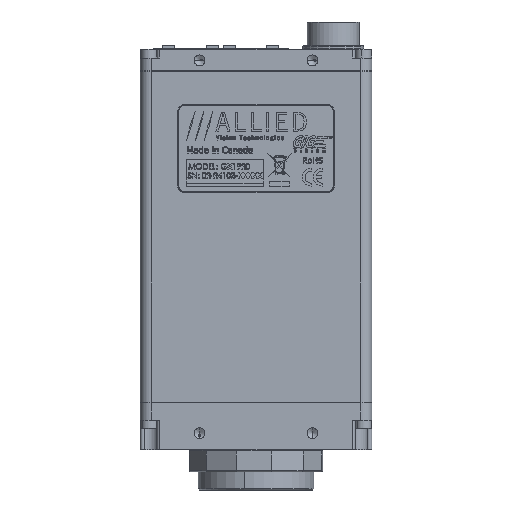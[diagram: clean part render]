
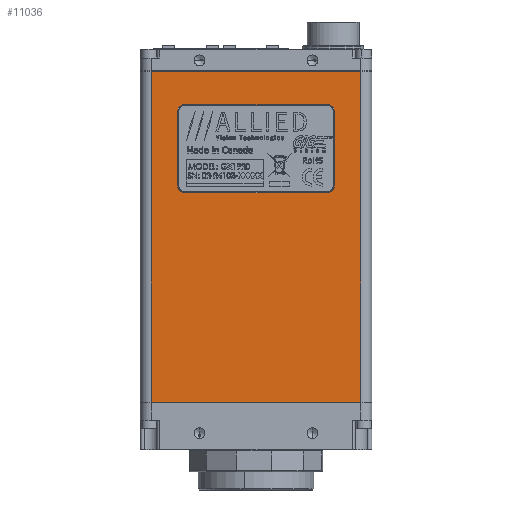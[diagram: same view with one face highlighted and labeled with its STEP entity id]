
A CAD part, front view. The second image highlights one B-rep face of the part: STEP entity #11036.
In plain terms, the highlighted planar face has unit normal (0, -1, 0).
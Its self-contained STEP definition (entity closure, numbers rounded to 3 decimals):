
#5130 = DIRECTION ( 'NONE',  ( 1., 0., 0. ) ) ;
#5493 = ORIENTED_EDGE ( 'NONE', *, *, #171075, .T. ) ;
#7937 = FACE_BOUND ( 'NONE', #172979, .T. ) ;
#11036 = ADVANCED_FACE ( 'NONE', ( #51782, #7937 ), #55392, .T. ) ;
#13838 = LINE ( 'NONE', #60412, #101396 ) ;
#18951 = CARTESIAN_POINT ( 'NONE',  ( 24.13, -10.16, 30.48 ) ) ;
#20796 = EDGE_CURVE ( 'NONE', #142044, #168007, #124942, .T. ) ;
#27977 = DIRECTION ( 'NONE',  ( 0., 0., -1. ) ) ;
#28758 = CARTESIAN_POINT ( 'NONE',  ( -24.13, -10.16, -92.399 ) ) ;
#29971 = DIRECTION ( 'NONE',  ( 0., 0., -1. ) ) ;
#38070 = VERTEX_POINT ( 'NONE', #125774 ) ;
#38634 = ORIENTED_EDGE ( 'NONE', *, *, #53291, .T. ) ;
#40317 = EDGE_CURVE ( 'NONE', #148089, #140801, #208707, .T. ) ;
#42620 = CARTESIAN_POINT ( 'NONE',  ( -24.13, -10.16, -38.1 ) ) ;
#44097 = LINE ( 'NONE', #115050, #93175 ) ;
#44415 = DIRECTION ( 'NONE',  ( 0., 1., 0. ) ) ;
#45643 = CIRCLE ( 'NONE', #122328, 1.587 ) ;
#47621 = CARTESIAN_POINT ( 'NONE',  ( 18.034, -10.16, 28.893 ) ) ;
#48918 = ORIENTED_EDGE ( 'NONE', *, *, #192285, .T. ) ;
#49168 = CIRCLE ( 'NONE', #115872, 1.587 ) ;
#50424 = VERTEX_POINT ( 'NONE', #101045 ) ;
#51782 = FACE_OUTER_BOUND ( 'NONE', #59771, .T. ) ;
#52984 = DIRECTION ( 'NONE',  ( 1., 0., 0. ) ) ;
#53014 = DIRECTION ( 'NONE',  ( 0., -1., 0. ) ) ;
#53291 = EDGE_CURVE ( 'NONE', #50424, #142044, #45643, .T. ) ;
#53444 = CARTESIAN_POINT ( 'NONE',  ( 24.13, -10.16, -92.399 ) ) ;
#55392 = PLANE ( 'NONE',  #141495 ) ;
#58416 = VERTEX_POINT ( 'NONE', #47621 ) ;
#59771 = EDGE_LOOP ( 'NONE', ( #48918, #90395, #163183, #96492 ) ) ;
#60412 = CARTESIAN_POINT ( 'NONE',  ( 24.13, -10.16, -38.1 ) ) ;
#67865 = EDGE_CURVE ( 'NONE', #129948, #58416, #133283, .T. ) ;
#69971 = CIRCLE ( 'NONE', #121446, 1.587 ) ;
#74578 = EDGE_CURVE ( 'NONE', #149611, #50424, #44097, .T. ) ;
#75357 = EDGE_CURVE ( 'NONE', #125925, #149611, #69971, .T. ) ;
#77073 = CARTESIAN_POINT ( 'NONE',  ( 16.447, -10.16, 10.16 ) ) ;
#84439 = CARTESIAN_POINT ( 'NONE',  ( -16.447, -10.16, 28.893 ) ) ;
#88366 = DIRECTION ( 'NONE',  ( 0., 0., 1. ) ) ;
#90395 = ORIENTED_EDGE ( 'NONE', *, *, #40317, .T. ) ;
#93175 = VECTOR ( 'NONE', #163821, 1000. ) ;
#93252 = CARTESIAN_POINT ( 'NONE',  ( 16.447, -10.16, 28.893 ) ) ;
#96492 = ORIENTED_EDGE ( 'NONE', *, *, #111504, .T. ) ;
#97763 = CARTESIAN_POINT ( 'NONE',  ( -18.034, -10.16, 28.893 ) ) ;
#100856 = DIRECTION ( 'NONE',  ( 1., 0., 0. ) ) ;
#100891 = CARTESIAN_POINT ( 'NONE',  ( 18.034, -10.16, 11.748 ) ) ;
#101045 = CARTESIAN_POINT ( 'NONE',  ( -16.447, -10.16, 10.16 ) ) ;
#101276 = LINE ( 'NONE', #128579, #188239 ) ;
#101396 = VECTOR ( 'NONE', #205436, 1000. ) ;
#103039 = AXIS2_PLACEMENT_3D ( 'NONE', #93252, #207230, #109770 ) ;
#103859 = DIRECTION ( 'NONE',  ( 0., 1., 0. ) ) ;
#109770 = DIRECTION ( 'NONE',  ( 1., 0., 0. ) ) ;
#111504 = EDGE_CURVE ( 'NONE', #177033, #160340, #168395, .T. ) ;
#114509 = CARTESIAN_POINT ( 'NONE',  ( 16.447, -10.16, 30.48 ) ) ;
#114727 = CARTESIAN_POINT ( 'NONE',  ( 24.13, -10.16, 38.1 ) ) ;
#115050 = CARTESIAN_POINT ( 'NONE',  ( 24.13, -10.16, 10.16 ) ) ;
#115872 = AXIS2_PLACEMENT_3D ( 'NONE', #84439, #198585, #100856 ) ;
#121446 = AXIS2_PLACEMENT_3D ( 'NONE', #201608, #103859, #5130 ) ;
#122328 = AXIS2_PLACEMENT_3D ( 'NONE', #143079, #44415, #159531 ) ;
#124359 = DIRECTION ( 'NONE',  ( 0., 0., 1. ) ) ;
#124876 = VECTOR ( 'NONE', #88366, 1000. ) ;
#124895 = CARTESIAN_POINT ( 'NONE',  ( -18.034, -10.16, -92.399 ) ) ;
#124942 = LINE ( 'NONE', #124895, #163369 ) ;
#125774 = CARTESIAN_POINT ( 'NONE',  ( -16.447, -10.16, 30.48 ) ) ;
#125925 = VERTEX_POINT ( 'NONE', #100891 ) ;
#128579 = CARTESIAN_POINT ( 'NONE',  ( 18.034, -10.16, -92.399 ) ) ;
#128815 = ORIENTED_EDGE ( 'NONE', *, *, #75357, .T. ) ;
#129948 = VERTEX_POINT ( 'NONE', #114509 ) ;
#130537 = LINE ( 'NONE', #141355, #179037 ) ;
#133283 = CIRCLE ( 'NONE', #103039, 1.587 ) ;
#134856 = DIRECTION ( 'NONE',  ( 1., 0., 0. ) ) ;
#137236 = CARTESIAN_POINT ( 'NONE',  ( 24.13, -10.16, -92.399 ) ) ;
#140801 = VERTEX_POINT ( 'NONE', #42620 ) ;
#141355 = CARTESIAN_POINT ( 'NONE',  ( 24.13, -10.16, 38.1 ) ) ;
#141495 = AXIS2_PLACEMENT_3D ( 'NONE', #53444, #53014, #52984 ) ;
#142044 = VERTEX_POINT ( 'NONE', #199555 ) ;
#143079 = CARTESIAN_POINT ( 'NONE',  ( -16.447, -10.16, 11.748 ) ) ;
#143590 = ORIENTED_EDGE ( 'NONE', *, *, #74578, .T. ) ;
#148089 = VERTEX_POINT ( 'NONE', #173737 ) ;
#149611 = VERTEX_POINT ( 'NONE', #77073 ) ;
#149612 = EDGE_CURVE ( 'NONE', #140801, #177033, #13838, .T. ) ;
#151705 = LINE ( 'NONE', #18951, #189732 ) ;
#157837 = DIRECTION ( 'NONE',  ( -1., 0., 0. ) ) ;
#159531 = DIRECTION ( 'NONE',  ( 1., 0., 0. ) ) ;
#160340 = VERTEX_POINT ( 'NONE', #114727 ) ;
#163183 = ORIENTED_EDGE ( 'NONE', *, *, #149612, .T. ) ;
#163369 = VECTOR ( 'NONE', #124359, 1000. ) ;
#163821 = DIRECTION ( 'NONE',  ( -1., 0., 0. ) ) ;
#165922 = VECTOR ( 'NONE', #27977, 1000. ) ;
#166029 = ORIENTED_EDGE ( 'NONE', *, *, #202920, .T. ) ;
#168007 = VERTEX_POINT ( 'NONE', #97763 ) ;
#168395 = LINE ( 'NONE', #137236, #124876 ) ;
#171067 = ORIENTED_EDGE ( 'NONE', *, *, #67865, .T. ) ;
#171075 = EDGE_CURVE ( 'NONE', #58416, #125925, #101276, .T. ) ;
#171345 = ORIENTED_EDGE ( 'NONE', *, *, #171612, .T. ) ;
#171612 = EDGE_CURVE ( 'NONE', #168007, #38070, #49168, .T. ) ;
#172979 = EDGE_LOOP ( 'NONE', ( #171345, #166029, #171067, #5493, #128815, #143590, #38634, #194162 ) ) ;
#173737 = CARTESIAN_POINT ( 'NONE',  ( -24.13, -10.16, 38.1 ) ) ;
#177033 = VERTEX_POINT ( 'NONE', #177476 ) ;
#177476 = CARTESIAN_POINT ( 'NONE',  ( 24.13, -10.16, -38.1 ) ) ;
#179037 = VECTOR ( 'NONE', #157837, 1000. ) ;
#188239 = VECTOR ( 'NONE', #29971, 1000. ) ;
#189732 = VECTOR ( 'NONE', #134856, 1000. ) ;
#192285 = EDGE_CURVE ( 'NONE', #160340, #148089, #130537, .T. ) ;
#194162 = ORIENTED_EDGE ( 'NONE', *, *, #20796, .T. ) ;
#198585 = DIRECTION ( 'NONE',  ( 0., 1., 0. ) ) ;
#199555 = CARTESIAN_POINT ( 'NONE',  ( -18.034, -10.16, 11.748 ) ) ;
#201608 = CARTESIAN_POINT ( 'NONE',  ( 16.447, -10.16, 11.748 ) ) ;
#202920 = EDGE_CURVE ( 'NONE', #38070, #129948, #151705, .T. ) ;
#205436 = DIRECTION ( 'NONE',  ( 1., 0., 0. ) ) ;
#207230 = DIRECTION ( 'NONE',  ( 0., 1., 0. ) ) ;
#208707 = LINE ( 'NONE', #28758, #165922 ) ;
